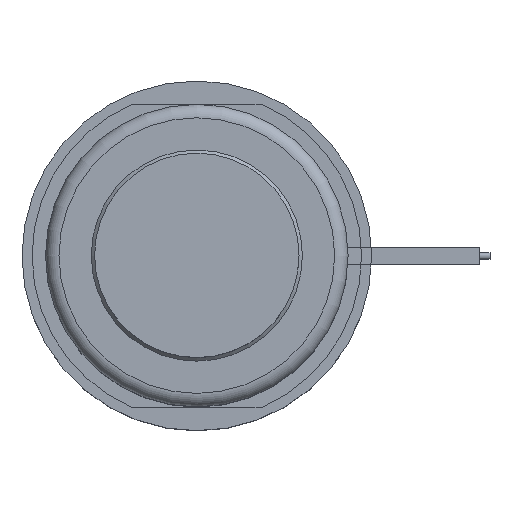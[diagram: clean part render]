
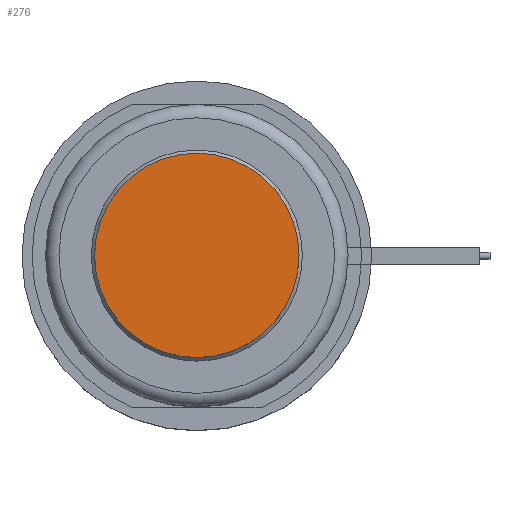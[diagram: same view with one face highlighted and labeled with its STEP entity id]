
A CAD part, top view. The second image highlights one B-rep face of the part: STEP entity #276.
In plain terms, the highlighted planar face has unit normal (0, 0, 1).
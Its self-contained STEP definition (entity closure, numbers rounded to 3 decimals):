
#276=ADVANCED_FACE('',(#410),#367,.F.);
#367=PLANE('',#1301);
#410=FACE_OUTER_BOUND('',#555,.T.);
#555=EDGE_LOOP('',(#695));
#695=ORIENTED_EDGE('',*,*,#1082,.F.);
#972=VERTEX_POINT('',#1857);
#1082=EDGE_CURVE('',#972,#972,#1221,.T.);
#1221=CIRCLE('',#1300,15.2);
#1300=AXIS2_PLACEMENT_3D('',#1856,#1476,#1477);
#1301=AXIS2_PLACEMENT_3D('',#1858,#1478,#1479);
#1476=DIRECTION('',(0.,0.,-1.));
#1477=DIRECTION('',(-1.,0.,0.));
#1478=DIRECTION('',(0.,0.,-1.));
#1479=DIRECTION('',(-1.,0.,0.));
#1856=CARTESIAN_POINT('',(0.,0.,18.));
#1857=CARTESIAN_POINT('',(-15.2,0.,18.));
#1858=CARTESIAN_POINT('',(0.,0.,18.));
